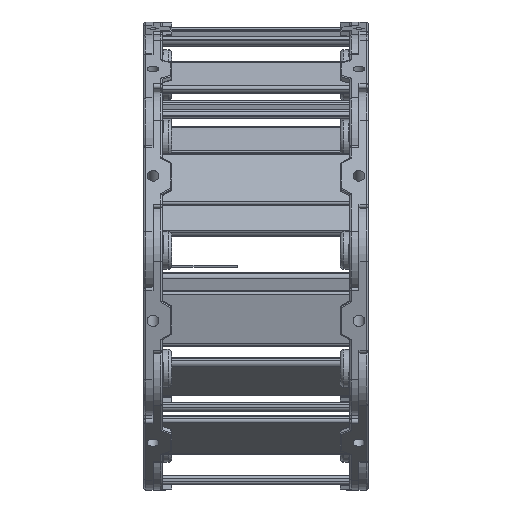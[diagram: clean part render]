
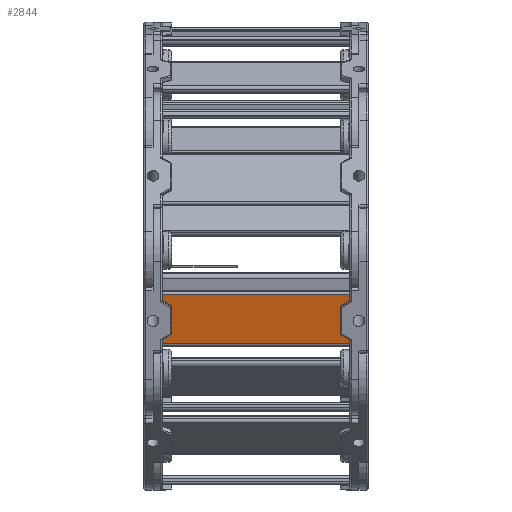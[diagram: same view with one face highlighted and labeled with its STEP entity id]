
A CAD part, front view. The second image highlights one B-rep face of the part: STEP entity #2844.
In plain terms, the highlighted planar face has unit normal (0, -0.97, -0.244) as drawn and (1, 0, 0) by its records, which use the part's own axes.
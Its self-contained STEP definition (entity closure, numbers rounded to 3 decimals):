
#2805=CARTESIAN_POINT('',(48.742,50.631,0.0));
#2806=DIRECTION('',(1.0,0.0,0.0));
#2807=DIRECTION('',(0.0,0.0,-1.0));
#2808=AXIS2_PLACEMENT_3D('',#2805,#2806,#2807);
#2809=PLANE('',#2808);
#2810=CARTESIAN_POINT('',(48.742,50.631,100.0));
#2811=VERTEX_POINT('',#2810);
#2812=CARTESIAN_POINT('',(48.742,23.635,100.0));
#2813=VERTEX_POINT('',#2812);
#2814=CARTESIAN_POINT('',(48.742,50.631,100.0));
#2815=DIRECTION('',(0.0,-1.0,0.0));
#2816=VECTOR('',#2815,26.996);
#2817=LINE('',#2814,#2816);
#2818=EDGE_CURVE('',#2811,#2813,#2817,.T.);
#2819=ORIENTED_EDGE('',*,*,#2818,.T.);
#2820=CARTESIAN_POINT('',(48.742,23.635,0.0));
#2821=VERTEX_POINT('',#2820);
#2822=CARTESIAN_POINT('',(48.742,23.635,0.0));
#2823=DIRECTION('',(0.0,0.0,1.0));
#2824=VECTOR('',#2823,100.0);
#2825=LINE('',#2822,#2824);
#2826=EDGE_CURVE('',#2821,#2813,#2825,.T.);
#2827=ORIENTED_EDGE('',*,*,#2826,.F.);
#2828=CARTESIAN_POINT('',(48.742,50.631,0.0));
#2829=VERTEX_POINT('',#2828);
#2830=CARTESIAN_POINT('',(48.742,23.635,0.0));
#2831=DIRECTION('',(0.0,1.0,0.0));
#2832=VECTOR('',#2831,26.996);
#2833=LINE('',#2830,#2832);
#2834=EDGE_CURVE('',#2821,#2829,#2833,.T.);
#2835=ORIENTED_EDGE('',*,*,#2834,.T.);
#2836=CARTESIAN_POINT('',(48.742,50.631,0.0));
#2837=DIRECTION('',(0.0,0.0,1.0));
#2838=VECTOR('',#2837,100.0);
#2839=LINE('',#2836,#2838);
#2840=EDGE_CURVE('',#2829,#2811,#2839,.T.);
#2841=ORIENTED_EDGE('',*,*,#2840,.T.);
#2842=EDGE_LOOP('',(#2819,#2827,#2835,#2841));
#2843=FACE_OUTER_BOUND('',#2842,.T.);
#2844=ADVANCED_FACE('',(#2843),#2809,.T.);
